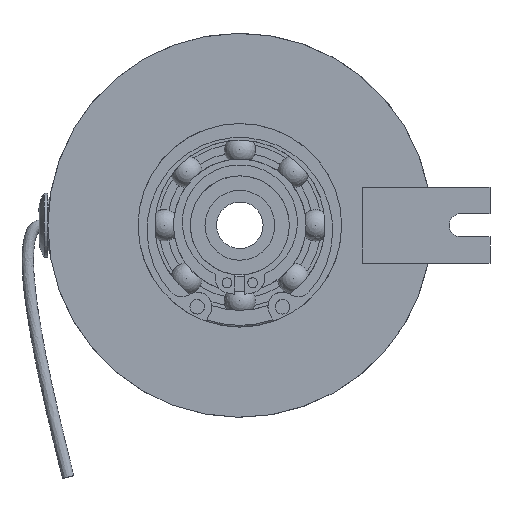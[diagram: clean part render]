
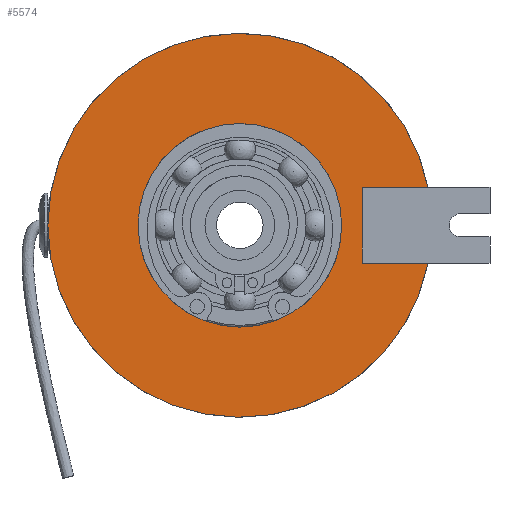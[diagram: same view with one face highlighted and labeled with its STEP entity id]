
A CAD part, left-side view. The second image highlights one B-rep face of the part: STEP entity #5574.
In plain terms, the highlighted planar face has unit normal (-1, 0, 0).
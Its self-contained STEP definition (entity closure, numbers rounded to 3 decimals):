
#241=FACE_BOUND('',#868,.T.);
#335=PLANE('',#6080);
#521=FACE_OUTER_BOUND('',#867,.T.);
#867=EDGE_LOOP('',(#4012,#4013,#4014,#4015,#4016));
#868=EDGE_LOOP('',(#4017));
#1251=CIRCLE('',#6064,33.);
#1257=CIRCLE('',#6081,33.);
#1258=CIRCLE('',#6082,17.5);
#1690=LINE('',#9069,#1937);
#1693=LINE('',#9075,#1940);
#1696=LINE('',#9079,#1943);
#1937=VECTOR('',#7271,10.);
#1940=VECTOR('',#7276,10.);
#1943=VECTOR('',#7281,10.);
#2222=VERTEX_POINT('',#8991);
#2224=VERTEX_POINT('',#8994);
#2237=VERTEX_POINT('',#9040);
#2245=VERTEX_POINT('',#9068);
#2247=VERTEX_POINT('',#9074);
#2248=VERTEX_POINT('',#9083);
#2854=EDGE_CURVE('',#2222,#2224,#1251,.T.);
#2882=EDGE_CURVE('',#2245,#2224,#1690,.T.);
#2885=EDGE_CURVE('',#2247,#2245,#1693,.T.);
#2888=EDGE_CURVE('',#2237,#2247,#1696,.T.);
#2889=EDGE_CURVE('',#2237,#2222,#1257,.T.);
#2890=EDGE_CURVE('',#2248,#2248,#1258,.T.);
#4012=ORIENTED_EDGE('',*,*,#2888,.T.);
#4013=ORIENTED_EDGE('',*,*,#2885,.T.);
#4014=ORIENTED_EDGE('',*,*,#2882,.T.);
#4015=ORIENTED_EDGE('',*,*,#2854,.F.);
#4016=ORIENTED_EDGE('',*,*,#2889,.F.);
#4017=ORIENTED_EDGE('',*,*,#2890,.T.);
#5574=ADVANCED_FACE('',(#521,#241),#335,.T.);
#6064=AXIS2_PLACEMENT_3D('',#8995,#7224,#7225);
#6080=AXIS2_PLACEMENT_3D('',#9081,#7284,#7285);
#6081=AXIS2_PLACEMENT_3D('',#9082,#7286,#7287);
#6082=AXIS2_PLACEMENT_3D('',#9084,#7288,#7289);
#7224=DIRECTION('center_axis',(1.,0.,0.));
#7225=DIRECTION('ref_axis',(0.,1.,0.));
#7271=DIRECTION('',(0.,-1.,0.));
#7276=DIRECTION('',(0.,0.,1.));
#7281=DIRECTION('',(0.,1.,0.));
#7284=DIRECTION('center_axis',(-1.,0.,0.));
#7285=DIRECTION('ref_axis',(0.,0.,1.));
#7286=DIRECTION('center_axis',(1.,0.,0.));
#7287=DIRECTION('ref_axis',(0.,1.,0.));
#7288=DIRECTION('center_axis',(1.,0.,0.));
#7289=DIRECTION('ref_axis',(0.,1.,0.));
#8991=CARTESIAN_POINT('',(-11.,33.,0.));
#8994=CARTESIAN_POINT('',(-11.,-32.354,6.5));
#8995=CARTESIAN_POINT('Origin',(-11.,0.,0.));
#9040=CARTESIAN_POINT('',(-11.,-32.354,-6.5));
#9068=CARTESIAN_POINT('',(-11.,-21.,6.5));
#9069=CARTESIAN_POINT('',(-11.,2.125,6.5));
#9074=CARTESIAN_POINT('',(-11.,-21.,-6.5));
#9075=CARTESIAN_POINT('',(-11.,-21.,-3.25));
#9079=CARTESIAN_POINT('',(-11.,-8.875,-6.5));
#9081=CARTESIAN_POINT('Origin',(-11.,25.25,0.));
#9082=CARTESIAN_POINT('Origin',(-11.,0.,0.));
#9083=CARTESIAN_POINT('',(-11.,-17.5,0.));
#9084=CARTESIAN_POINT('Origin',(-11.,0.,0.));
